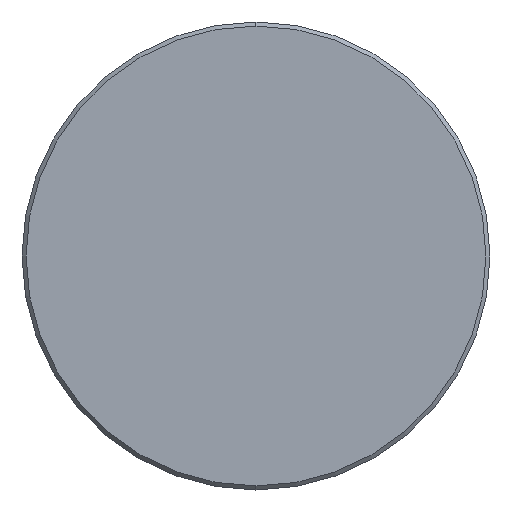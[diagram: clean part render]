
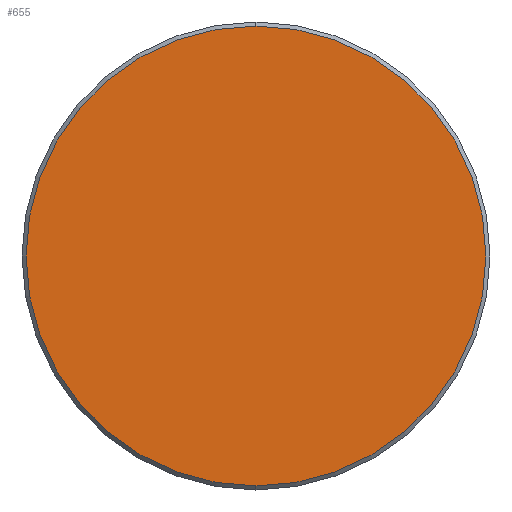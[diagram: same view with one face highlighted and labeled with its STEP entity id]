
A CAD part, left-side view. The second image highlights one B-rep face of the part: STEP entity #655.
In plain terms, the highlighted planar face has unit normal (-1, 0, 0).
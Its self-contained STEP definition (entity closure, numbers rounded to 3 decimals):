
#133 = DIRECTION ( 'NONE',  ( 0., 0., 1. ) ) ;
#146 = PLANE ( 'NONE',  #641 ) ;
#157 = CARTESIAN_POINT ( 'NONE',  ( 7.093, 124.697, 0. ) ) ;
#209 = ORIENTED_EDGE ( 'NONE', *, *, #722, .F. ) ;
#231 = AXIS2_PLACEMENT_3D ( 'NONE', #157, #577, #915 ) ;
#264 = DIRECTION ( 'NONE',  ( 0., 0., -1. ) ) ;
#286 = CARTESIAN_POINT ( 'NONE',  ( 7.093, 124.697, 28.5 ) ) ;
#364 = DIRECTION ( 'NONE',  ( 1., 0., 0. ) ) ;
#378 = VERTEX_POINT ( 'NONE', #286 ) ;
#441 = VERTEX_POINT ( 'NONE', #607 ) ;
#495 = CARTESIAN_POINT ( 'NONE',  ( 7.093, 124.697, 0. ) ) ;
#524 = AXIS2_PLACEMENT_3D ( 'NONE', #495, #364, #264 ) ;
#546 = EDGE_LOOP ( 'NONE', ( #708, #209 ) ) ;
#577 = DIRECTION ( 'NONE',  ( 1., 0., 0. ) ) ;
#607 = CARTESIAN_POINT ( 'NONE',  ( 7.093, 124.697, -28.5 ) ) ;
#641 = AXIS2_PLACEMENT_3D ( 'NONE', #1257, #1025, #133 ) ;
#655 = ADVANCED_FACE ( 'NONE', ( #1241 ), #146, .T. ) ;
#708 = ORIENTED_EDGE ( 'NONE', *, *, #768, .F. ) ;
#722 = EDGE_CURVE ( 'NONE', #378, #441, #769, .T. ) ;
#768 = EDGE_CURVE ( 'NONE', #441, #378, #1225, .T. ) ;
#769 = CIRCLE ( 'NONE', #231, 28.5 ) ;
#915 = DIRECTION ( 'NONE',  ( 0., 0., -1. ) ) ;
#1025 = DIRECTION ( 'NONE',  ( -1., 0., 0. ) ) ;
#1225 = CIRCLE ( 'NONE', #524, 28.5 ) ;
#1241 = FACE_OUTER_BOUND ( 'NONE', #546, .T. ) ;
#1257 = CARTESIAN_POINT ( 'NONE',  ( 7.093, 124.697, 0. ) ) ;
